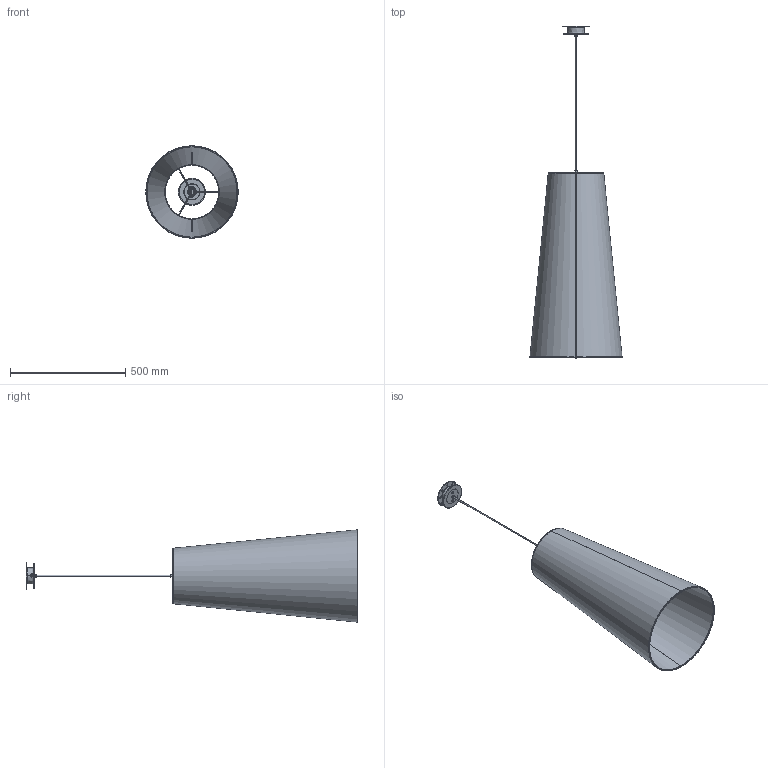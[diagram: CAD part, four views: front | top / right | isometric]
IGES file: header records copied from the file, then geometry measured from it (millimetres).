
Start section: SolidWorks IGES file using analytic representation for surfaces
Global section: file name: C:\Users\berta.gumma\OneDrive - santa &cole\Desktop\GT4 chapa adaptadora (florón sisisi).IGS; native system: SolidWorks 2021; preprocessor: SolidWorks 2021; author: berta.gumma; date: 230907.094954; units: millimetre
Bounding box: 400 x 1437.04 x 400 mm (x, y, z)
Surface area: 1764031.7 mm2 (no closed solid volume)
Topology: 0 solids, 0 shells, 562 faces, 8340 edges, 8340 vertices
Faces by surface type: revolution 325, bspline 237
